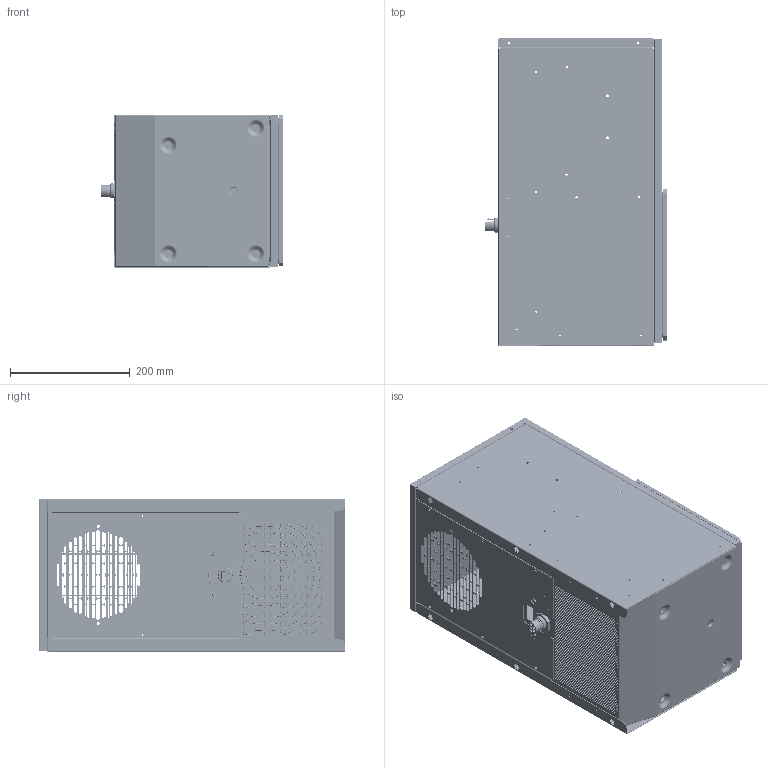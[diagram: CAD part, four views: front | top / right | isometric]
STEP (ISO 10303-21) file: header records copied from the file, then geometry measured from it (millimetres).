
FILE_DESCRIPTION (( 'STEP AP203' ), '1' );
FILE_NAME ('DTS 3041-61 115-230V.STEP', '2017-11-29T13:17:57', ( '' ), ( '' ), 'SwSTEP 2.0', 'SolidWorks 2015', '' );
FILE_SCHEMA (( 'CONFIG_CONTROL_DESIGN' ));
Length unit declared in the file: millimetre
Products named in the file (15): 885000012; 885000013; 30203-016_802004002; 015080031; 30203-035_813000000; 30203-011_802004025; 30203-044_802000235; 30203-018_802005002; 825500030_825500030; US-30165-011_005070401; 30203-012_802004001; 30165-040_005071401; 30203-017_802004002; DTS 3041-61 115-230V; 30203-043_802000233
Assembly tree (14 placements, depth 2):
  DTS 3041-61 115-230V
    30203-016_802004002
    30203-035_813000000
    30203-044_802000235
    825500030_825500030
    30203-012_802004001
    30203-017_802004002
    30203-043_802000233
    885000012
    885000013
    015080031
    30203-011_802004025
    30203-018_802005002
    US-30165-011_005070401
    30165-040_005071401
Bounding box: 304.54 x 512.07 x 258.69 mm (x, y, z)
Volume: 1642182.9 mm3; surface area: 2203946.5 mm2
Topology: 20 solids, 21 shells, 8495 faces, 23684 edges, 15464 vertices
Faces by surface type: plane 3999, bspline 2468, cylinder 1784, torus 214, cone 22, sphere 8
Entity records: 401958 total; most frequent: CARTESIAN_POINT 195483, ORIENTED_EDGE 47352, DIRECTION 33410, EDGE_CURVE 23676, VERTEX_POINT 15464, VECTOR 13954, LINE 13954, EDGE_LOOP 10350
